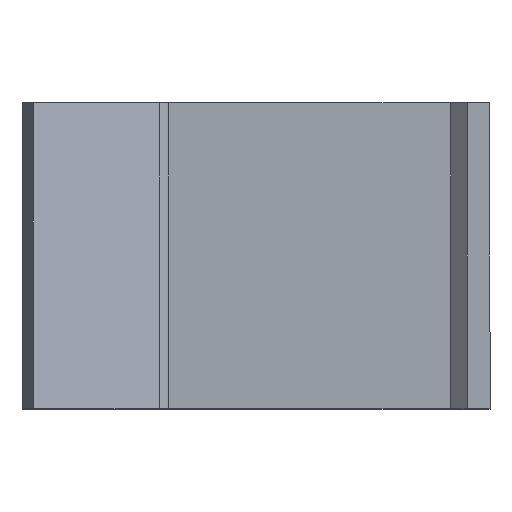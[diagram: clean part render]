
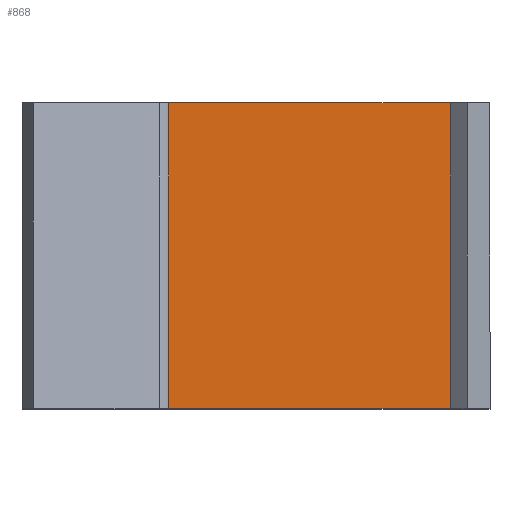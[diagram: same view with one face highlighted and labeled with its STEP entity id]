
A CAD part, top view. The second image highlights one B-rep face of the part: STEP entity #868.
In plain terms, the highlighted planar face has unit normal (0, 0, 1).
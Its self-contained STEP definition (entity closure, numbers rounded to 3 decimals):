
#100=FACE_OUTER_BOUND('',#154,.T.);
#154=EDGE_LOOP('',(#663,#664,#665,#666));
#229=LINE('',#1336,#329);
#233=LINE('',#1343,#333);
#234=LINE('',#1346,#334);
#235=LINE('',#1347,#335);
#329=VECTOR('',#1082,80.);
#333=VECTOR('',#1088,78.);
#334=VECTOR('',#1091,80.);
#335=VECTOR('',#1092,78.);
#414=VERTEX_POINT('',#1320);
#417=VERTEX_POINT('',#1327);
#420=VERTEX_POINT('',#1341);
#421=VERTEX_POINT('',#1345);
#505=EDGE_CURVE('',#414,#417,#229,.T.);
#509=EDGE_CURVE('',#420,#417,#233,.T.);
#510=EDGE_CURVE('',#421,#420,#234,.T.);
#511=EDGE_CURVE('',#414,#421,#235,.T.);
#663=ORIENTED_EDGE('',*,*,#505,.T.);
#664=ORIENTED_EDGE('',*,*,#509,.F.);
#665=ORIENTED_EDGE('',*,*,#510,.F.);
#666=ORIENTED_EDGE('',*,*,#511,.F.);
#818=PLANE('',#935);
#868=ADVANCED_FACE('',(#100),#818,.T.);
#935=AXIS2_PLACEMENT_3D('',#1344,#1089,#1090);
#1082=DIRECTION('',(0.,-1.,0.));
#1088=DIRECTION('',(-1.,0.,0.));
#1089=DIRECTION('center_axis',(0.,0.,1.));
#1090=DIRECTION('ref_axis',(1.,0.,0.));
#1091=DIRECTION('',(0.,-1.,0.));
#1092=DIRECTION('',(1.,0.,0.));
#1320=CARTESIAN_POINT('',(-78.,80.,6.));
#1327=CARTESIAN_POINT('',(-78.,0.,6.));
#1336=CARTESIAN_POINT('',(-78.,20.,6.));
#1341=CARTESIAN_POINT('',(0.,0.,6.));
#1343=CARTESIAN_POINT('',(0.,0.,6.));
#1344=CARTESIAN_POINT('Origin',(-60.,40.,6.));
#1345=CARTESIAN_POINT('',(0.,80.,6.));
#1346=CARTESIAN_POINT('',(0.,80.,6.));
#1347=CARTESIAN_POINT('',(-120.,80.,6.));
